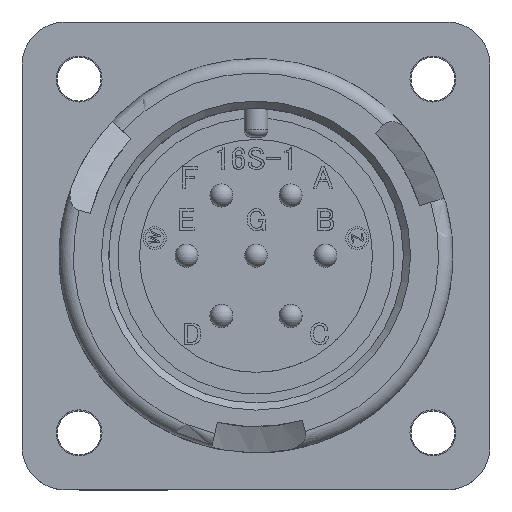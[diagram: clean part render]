
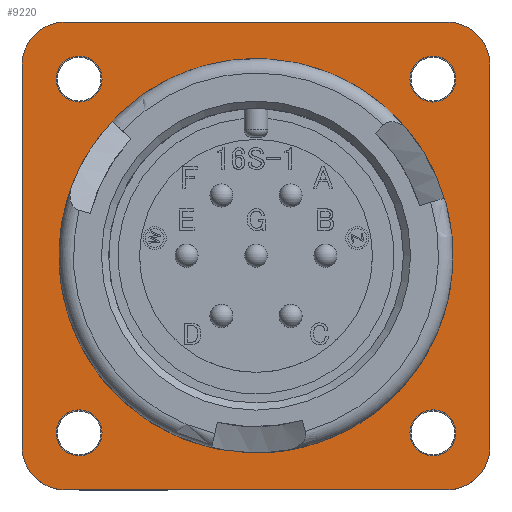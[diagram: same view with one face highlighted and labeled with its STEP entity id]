
A CAD part, top view. The second image highlights one B-rep face of the part: STEP entity #9220.
In plain terms, the highlighted planar face has unit normal (0, 0, 1).
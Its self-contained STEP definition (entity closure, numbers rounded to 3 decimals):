
#1 = EDGE_LOOP ( 'NONE', ( #16791 ) ) ;
#44 = ORIENTED_EDGE ( 'NONE', *, *, #5970, .T. ) ;
#142 = DIRECTION ( 'NONE',  ( -1., 0., 0. ) ) ;
#329 = VERTEX_POINT ( 'NONE', #24961 ) ;
#528 = VERTEX_POINT ( 'NONE', #8180 ) ;
#722 = CIRCLE ( 'NONE', #23046, 3. ) ;
#1071 = FACE_BOUND ( 'NONE', #9108, .T. ) ;
#1144 = CARTESIAN_POINT ( 'NONE',  ( -12.305, -12.305, -14.4 ) ) ;
#1187 = EDGE_CURVE ( 'NONE', #11568, #11568, #20371, .T. ) ;
#1213 = VERTEX_POINT ( 'NONE', #27361 ) ;
#1428 = CARTESIAN_POINT ( 'NONE',  ( 0., 0., -14.4 ) ) ;
#1434 = FACE_BOUND ( 'NONE', #1, .T. ) ;
#1481 = EDGE_LOOP ( 'NONE', ( #44 ) ) ;
#1794 = EDGE_CURVE ( 'NONE', #5927, #8334, #3349, .T. ) ;
#1845 = DIRECTION ( 'NONE',  ( 0., 1., 0. ) ) ;
#1953 = EDGE_CURVE ( 'NONE', #8249, #8249, #14044, .T. ) ;
#2023 = CARTESIAN_POINT ( 'NONE',  ( 10.705, 12.305, -14.4 ) ) ;
#2373 = VERTEX_POINT ( 'NONE', #24346 ) ;
#2416 = EDGE_CURVE ( 'NONE', #26320, #5927, #8660, .T. ) ;
#3349 = CIRCLE ( 'NONE', #8069, 3. ) ;
#3775 = CARTESIAN_POINT ( 'NONE',  ( -13.905, 12.305, -14.4 ) ) ;
#3827 = CARTESIAN_POINT ( 'NONE',  ( 12.305, 12.305, -14.4 ) ) ;
#3974 = DIRECTION ( 'NONE',  ( 0., -1., 0. ) ) ;
#3983 = ORIENTED_EDGE ( 'NONE', *, *, #13768, .T. ) ;
#4182 = LINE ( 'NONE', #20943, #5176 ) ;
#4266 = AXIS2_PLACEMENT_3D ( 'NONE', #9388, #20361, #24278 ) ;
#4458 = CARTESIAN_POINT ( 'NONE',  ( -16.27, 13.27, -14.4 ) ) ;
#4492 = VERTEX_POINT ( 'NONE', #15137 ) ;
#4553 = DIRECTION ( 'NONE',  ( 0., 0., -1. ) ) ;
#4976 = VECTOR ( 'NONE', #18164, 1000. ) ;
#5176 = VECTOR ( 'NONE', #3974, 1000. ) ;
#5307 = DIRECTION ( 'NONE',  ( -1., 0., 0. ) ) ;
#5493 = DIRECTION ( 'NONE',  ( 0., 0., -1. ) ) ;
#5602 = CIRCLE ( 'NONE', #23955, 3. ) ;
#5927 = VERTEX_POINT ( 'NONE', #16183 ) ;
#5970 = EDGE_CURVE ( 'NONE', #1213, #1213, #21063, .T. ) ;
#6154 = EDGE_CURVE ( 'NONE', #21630, #26212, #722, .T. ) ;
#6163 = DIRECTION ( 'NONE',  ( -1., 0., 0. ) ) ;
#6553 = ORIENTED_EDGE ( 'NONE', *, *, #25819, .T. ) ;
#6827 = DIRECTION ( 'NONE',  ( 0., 0., 1. ) ) ;
#7215 = AXIS2_PLACEMENT_3D ( 'NONE', #1428, #18434, #16321 ) ;
#7987 = CIRCLE ( 'NONE', #7215, 13.7 ) ;
#8069 = AXIS2_PLACEMENT_3D ( 'NONE', #23782, #6827, #13170 ) ;
#8180 = CARTESIAN_POINT ( 'NONE',  ( -13.7, 0., -14.4 ) ) ;
#8249 = VERTEX_POINT ( 'NONE', #3775 ) ;
#8296 = ORIENTED_EDGE ( 'NONE', *, *, #22824, .T. ) ;
#8334 = VERTEX_POINT ( 'NONE', #25872 ) ;
#8513 = PLANE ( 'NONE',  #16326 ) ;
#8660 = LINE ( 'NONE', #22498, #4976 ) ;
#8685 = DIRECTION ( 'NONE',  ( 0., 0., -1. ) ) ;
#9108 = EDGE_LOOP ( 'NONE', ( #22217 ) ) ;
#9220 = ADVANCED_FACE ( 'NONE', ( #1071, #25739, #22414, #18394, #1434, #12107 ), #8513, .F. ) ;
#9274 = AXIS2_PLACEMENT_3D ( 'NONE', #25649, #4553, #142 ) ;
#9388 = CARTESIAN_POINT ( 'NONE',  ( -12.305, 12.305, -14.4 ) ) ;
#9846 = DIRECTION ( 'NONE',  ( -1., 0., 0. ) ) ;
#9988 = DIRECTION ( 'NONE',  ( 0., 0., 1. ) ) ;
#10486 = CARTESIAN_POINT ( 'NONE',  ( 16.27, 13.27, -14.4 ) ) ;
#10574 = EDGE_CURVE ( 'NONE', #329, #21630, #15996, .T. ) ;
#10759 = EDGE_LOOP ( 'NONE', ( #13105 ) ) ;
#10813 = EDGE_LOOP ( 'NONE', ( #6553, #15728, #13024, #3983, #20684, #19138, #22915, #16306 ) ) ;
#10831 = EDGE_CURVE ( 'NONE', #528, #528, #7987, .T. ) ;
#11568 = VERTEX_POINT ( 'NONE', #2023 ) ;
#11644 = EDGE_LOOP ( 'NONE', ( #8296 ) ) ;
#11842 = DIRECTION ( 'NONE',  ( 0., 0., 1. ) ) ;
#12107 = FACE_OUTER_BOUND ( 'NONE', #10813, .T. ) ;
#12309 = CARTESIAN_POINT ( 'NONE',  ( -13.27, 16.27, -14.4 ) ) ;
#12505 = DIRECTION ( 'NONE',  ( 0., 0., -1. ) ) ;
#12970 = DIRECTION ( 'NONE',  ( -1., 0., 0. ) ) ;
#12989 = VECTOR ( 'NONE', #19466, 1000. ) ;
#13024 = ORIENTED_EDGE ( 'NONE', *, *, #6154, .T. ) ;
#13105 = ORIENTED_EDGE ( 'NONE', *, *, #1953, .T. ) ;
#13170 = DIRECTION ( 'NONE',  ( -1., 0., 0. ) ) ;
#13198 = CARTESIAN_POINT ( 'NONE',  ( -13.27, 13.27, -14.4 ) ) ;
#13768 = EDGE_CURVE ( 'NONE', #26212, #2373, #4182, .T. ) ;
#13978 = DIRECTION ( 'NONE',  ( 1., 0., 0. ) ) ;
#14044 = CIRCLE ( 'NONE', #4266, 1.6 ) ;
#15137 = CARTESIAN_POINT ( 'NONE',  ( -13.905, -12.305, -14.4 ) ) ;
#15728 = ORIENTED_EDGE ( 'NONE', *, *, #10574, .T. ) ;
#15996 = LINE ( 'NONE', #19657, #12989 ) ;
#16037 = EDGE_CURVE ( 'NONE', #2373, #26320, #16925, .T. ) ;
#16183 = CARTESIAN_POINT ( 'NONE',  ( 13.27, -16.27, -14.4 ) ) ;
#16259 = AXIS2_PLACEMENT_3D ( 'NONE', #3827, #12505, #6163 ) ;
#16306 = ORIENTED_EDGE ( 'NONE', *, *, #23372, .T. ) ;
#16321 = DIRECTION ( 'NONE',  ( -1., 0., 0. ) ) ;
#16326 = AXIS2_PLACEMENT_3D ( 'NONE', #25555, #8685, #12970 ) ;
#16791 = ORIENTED_EDGE ( 'NONE', *, *, #10831, .F. ) ;
#16925 = CIRCLE ( 'NONE', #20719, 3. ) ;
#18164 = DIRECTION ( 'NONE',  ( 1., 0., 0. ) ) ;
#18394 = FACE_BOUND ( 'NONE', #10759, .T. ) ;
#18434 = DIRECTION ( 'NONE',  ( 0., 0., 1. ) ) ;
#18453 = CARTESIAN_POINT ( 'NONE',  ( 13.27, 13.27, -14.4 ) ) ;
#18963 = VECTOR ( 'NONE', #1845, 1000. ) ;
#19138 = ORIENTED_EDGE ( 'NONE', *, *, #2416, .T. ) ;
#19466 = DIRECTION ( 'NONE',  ( -1., 0., 0. ) ) ;
#19657 = CARTESIAN_POINT ( 'NONE',  ( -13.27, 16.27, -14.4 ) ) ;
#20361 = DIRECTION ( 'NONE',  ( 0., 0., -1. ) ) ;
#20371 = CIRCLE ( 'NONE', #16259, 1.6 ) ;
#20392 = CARTESIAN_POINT ( 'NONE',  ( -13.27, -13.27, -14.4 ) ) ;
#20684 = ORIENTED_EDGE ( 'NONE', *, *, #16037, .T. ) ;
#20719 = AXIS2_PLACEMENT_3D ( 'NONE', #20392, #9988, #24874 ) ;
#20943 = CARTESIAN_POINT ( 'NONE',  ( -16.27, 13.27, -14.4 ) ) ;
#20976 = LINE ( 'NONE', #27535, #18963 ) ;
#21063 = CIRCLE ( 'NONE', #9274, 1.6 ) ;
#21630 = VERTEX_POINT ( 'NONE', #12309 ) ;
#22217 = ORIENTED_EDGE ( 'NONE', *, *, #1187, .T. ) ;
#22414 = FACE_BOUND ( 'NONE', #11644, .T. ) ;
#22498 = CARTESIAN_POINT ( 'NONE',  ( -13.27, -16.27, -14.4 ) ) ;
#22824 = EDGE_CURVE ( 'NONE', #4492, #4492, #27322, .T. ) ;
#22915 = ORIENTED_EDGE ( 'NONE', *, *, #1794, .T. ) ;
#23046 = AXIS2_PLACEMENT_3D ( 'NONE', #13198, #11842, #13978 ) ;
#23372 = EDGE_CURVE ( 'NONE', #8334, #26007, #20976, .T. ) ;
#23782 = CARTESIAN_POINT ( 'NONE',  ( 13.27, -13.27, -14.4 ) ) ;
#23955 = AXIS2_PLACEMENT_3D ( 'NONE', #18453, #25001, #9846 ) ;
#24033 = CARTESIAN_POINT ( 'NONE',  ( -13.27, -16.27, -14.4 ) ) ;
#24278 = DIRECTION ( 'NONE',  ( -1., 0., 0. ) ) ;
#24346 = CARTESIAN_POINT ( 'NONE',  ( -16.27, -13.27, -14.4 ) ) ;
#24874 = DIRECTION ( 'NONE',  ( -1., 0., 0. ) ) ;
#24961 = CARTESIAN_POINT ( 'NONE',  ( 13.27, 16.27, -14.4 ) ) ;
#25001 = DIRECTION ( 'NONE',  ( 0., 0., 1. ) ) ;
#25555 = CARTESIAN_POINT ( 'NONE',  ( 13.27, 13.27, -14.4 ) ) ;
#25649 = CARTESIAN_POINT ( 'NONE',  ( 12.305, -12.305, -14.4 ) ) ;
#25739 = FACE_BOUND ( 'NONE', #1481, .T. ) ;
#25819 = EDGE_CURVE ( 'NONE', #26007, #329, #5602, .T. ) ;
#25872 = CARTESIAN_POINT ( 'NONE',  ( 16.27, -13.27, -14.4 ) ) ;
#26007 = VERTEX_POINT ( 'NONE', #10486 ) ;
#26212 = VERTEX_POINT ( 'NONE', #4458 ) ;
#26320 = VERTEX_POINT ( 'NONE', #24033 ) ;
#26638 = AXIS2_PLACEMENT_3D ( 'NONE', #1144, #5493, #5307 ) ;
#27322 = CIRCLE ( 'NONE', #26638, 1.6 ) ;
#27361 = CARTESIAN_POINT ( 'NONE',  ( 10.705, -12.305, -14.4 ) ) ;
#27535 = CARTESIAN_POINT ( 'NONE',  ( 16.27, 13.27, -14.4 ) ) ;
